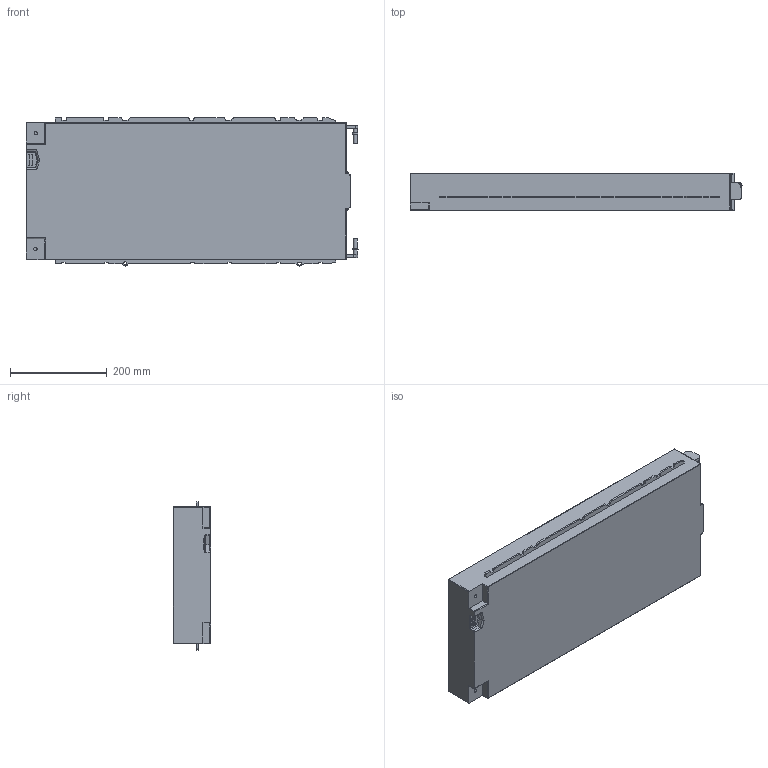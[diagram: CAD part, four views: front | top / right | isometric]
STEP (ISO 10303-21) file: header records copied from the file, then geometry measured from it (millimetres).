
FILE_DESCRIPTION(/* description */ (''),/* implementation_level */ '2;1');
FILE_NAME(/* name */ '/Users/chrishazell/Desktop/tesla battery module model s.step',/* time_stamp */ '2018-01-22T13:41:20+00:00',/* author */ ('chris.hazell53'),/* organization */ (''),/* preprocessor_version */ 'ST-DEVELOPER v16.13',/* originating_system */ 'Autodesk Translation Framework v6.5.0.72',/* authorisation */ '');
FILE_SCHEMA (('AUTOMOTIVE_DESIGN { 1 0 10303 214 3 1 1 }'));
Length unit declared in the file: millimetre
Products named in the file (2): tesla battery module; Component2
Assembly tree (2 placements, depth 2):
  tesla battery module
    Component2  x2
Bounding box: 686.1 x 77 x 306 mm (x, y, z)
Volume: 14462903.5 mm3; surface area: 551489.5 mm2
Topology: 3 solids, 3 shells, 316 faces, 815 edges, 516 vertices
Faces by surface type: cylinder 136, plane 134, bspline 34, torus 6, sphere 6
Full cylindrical faces by diameter (mm): 5.2 x2, 6 x1, 6.779 x2, 8 x4, 11.5 x2
Entity records: 9958 total; most frequent: CARTESIAN_POINT 2502, DIRECTION 1561, ORIENTED_EDGE 1558, EDGE_CURVE 779, AXIS2_PLACEMENT_3D 551, VERTEX_POINT 494, LINE 459, VECTOR 459
